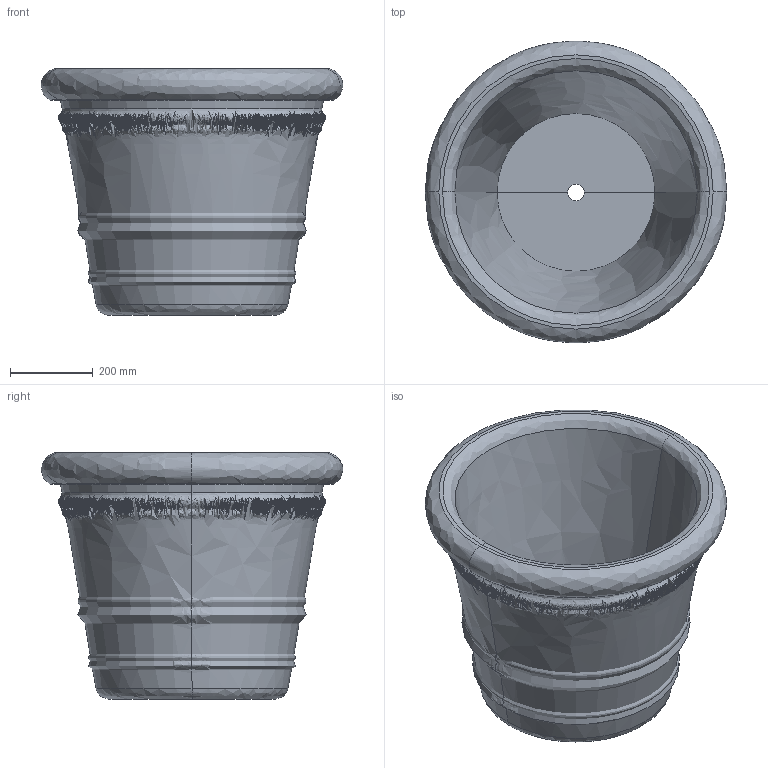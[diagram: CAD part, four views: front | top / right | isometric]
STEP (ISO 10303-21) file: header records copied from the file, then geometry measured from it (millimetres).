
FILE_DESCRIPTION(/* description */ (''),/* implementation_level */ '2;1');
FILE_NAME(/* name */ '70',/* time_stamp */ '2026-07-16T10:58:50+02:00',/* author */ (''),/* organization */ (''),/* preprocessor_version */ 'ST-DEVELOPER v19.2',/* originating_system */ 'Rhino 8.33',/* authorisation */ '');
FILE_SCHEMA (('CONFIG_CONTROL_DESIGN'));
Length unit declared in the file: millimetre
Products named in the file (1): Document
Bounding box: 728.74 x 728.94 x 595 mm (x, y, z)
Volume: 47057397.2 mm3; surface area: 2523513.5 mm2
Topology: 1 solids, 1 shells, 22 faces, 44 edges, 24 vertices
Faces by surface type: bspline 16, plane 4, cylinder 2
Entity records: 1632 total; most frequent: CARTESIAN_POINT 1142, ORIENTED_EDGE 88, DIRECTION 70, EDGE_CURVE 44, AXIS2_PLACEMENT_3D 38, TRIMMED_CURVE 30, CIRCLE 30, EDGE_LOOP 24
